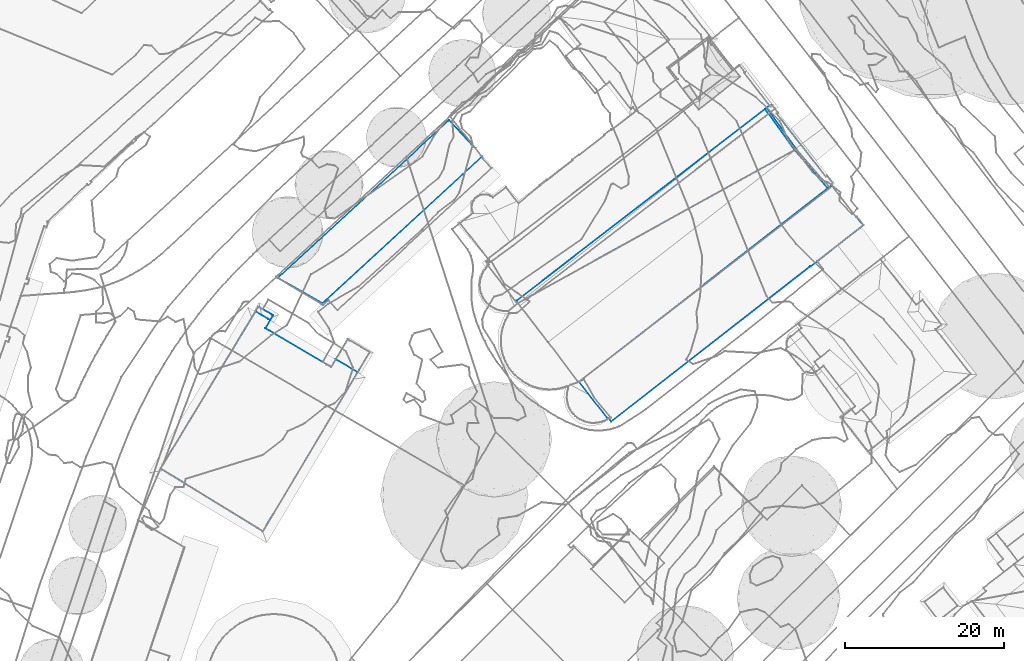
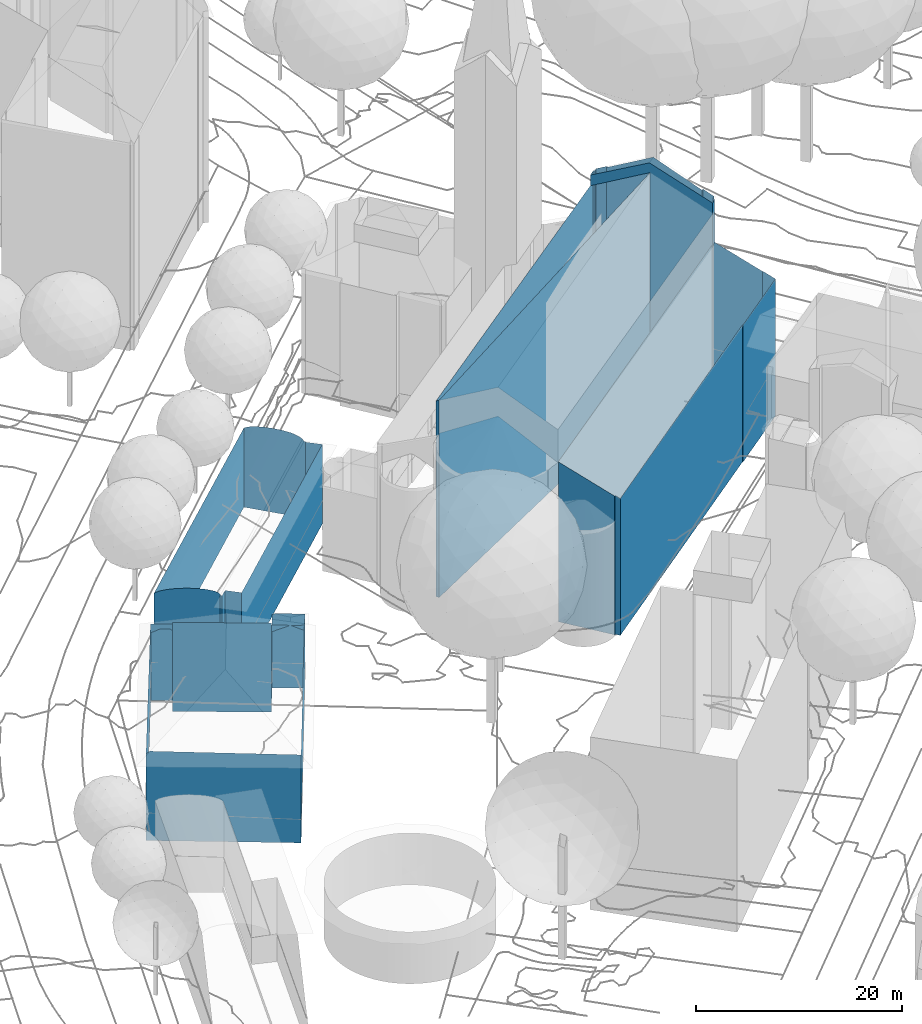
# Not in any storey, part 24 of 494: 3 walls.
"""IFC2X3 model written with IfcOpenShell, lengths in metres."""

from ifc_helpers import new_model, si_unit, frame, origin_with_axes, place, context, subcontext, project, faceted_brep, element, save


model = new_model("IFC2X3")

# Units and contexts
model_context = context("Model", 3, precision=1e-05, world=origin_with_axes())
body_context = subcontext(model_context, "Body", "Model", "MODEL_VIEW")
ifc_project = project(units=[si_unit("AREAUNIT", "SQUARE_METRE"), si_unit("LENGTHUNIT", "METRE")], contexts=[model_context])

# Walls
wall_1_placement = place(None, frame((95.7557320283, 201.4705160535, 529.7781), z_axis=(0.0, 0.0, 1.0), x_axis=(1.0, 0.0, 0.0)))
element("IfcWall", 1, at=wall_1_placement, Name="Wall 0", context=body_context, shape_type="Brep", body=[
    faceted_brep([(0.0, 0.0, 10.294), (0.175999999, 0.2763999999, 4.8265), (0.0, 0.0, 7.7173), (0.2969999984, 0.4638999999, 10.308), (0.2969999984, 0.4638999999, 7.7303), (0.0, 0.0, 5.1405), (0.0, 0.0, 0.0), (0.2969999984, 0.4638999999, 5.1535), (0.2969999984, 0.4638999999, 2.5767), (0.3019999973, 0.4726999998, 0.0), (22.0429999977, 13.7372999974, 9.5431), (23.6169999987, 12.7978999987, 9.5141), (22.0429999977, 13.7372999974, 8.7192), (24.7869999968, 12.1006000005, 9.5361), (24.7869999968, 12.1006000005, 8.9061), (23.5359999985, 16.2520000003, 0.0), (23.5359999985, 16.2520000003, 8.7192), (23.7709999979, 16.1142999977, 0.0), (23.7709999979, 16.1142999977, 8.8341), (26.2989999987, 14.6358000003, 8.8231), (26.2989999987, 14.6358000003, 0.0), (21.4659999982, 12.7588, 10.535), (21.4659999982, 12.7588, 0.0), (22.0429999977, 13.7372999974, 0.0), (12.8699999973, -7.8887000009, 10.421), (12.8409999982, -7.871100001, 10.446), (12.8699999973, -7.8887000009, 0.0), (0.3530000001, -0.2158000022, 0.0), (0.3530000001, -0.2158000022, 10.61), (0.4119999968, 0.6543000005, 10.308), (11.9439999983, 19.7558999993, 8.4852), (11.443, 18.9247999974, 0.0), (11.443, 18.9247999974, 10.4), (11.9439999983, 19.7558999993, 9.5431), (12.2919999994, 20.3330000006, 0.0), (12.2919999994, 20.3330000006, 8.4872), (12.5199999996, 20.2040999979, 8.6212), (14.0029999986, 19.3642999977, 8.6032), (14.1559999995, 19.2773999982, 8.6012), (14.0029999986, 19.3642999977, 0.0), (14.1559999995, 19.2773999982, 0.0), (12.7229999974, 19.2909999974, 9.5431), (12.7229999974, 19.2909999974, 8.9522), (13.561999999, 18.7929999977, 8.9521), (13.561999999, 18.7929999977, 9.5431), (13.7899999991, 18.6562999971, 9.5431), (13.7899999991, 18.6562999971, 8.7602), (13.7899999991, 18.6562999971, 0.0), (13.9899999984, 18.995099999, 0.0), (13.6099999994, 18.3506000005, 0.0), (13.186999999, 17.6308999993, 0.0), (13.6099999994, 18.3506000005, 9.8571), (13.186999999, 17.6308999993, 10.593), (13.9899999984, 18.995099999, 8.7612), (13.7209999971, 17.3173999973, 10.59), (13.7209999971, 17.3173999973, 0.0), (14.305999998, 16.9726999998, 10.586), (14.305999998, 16.9726999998, 0.0), (20.8969999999, 13.0937999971, 10.548), (20.8969999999, 13.0937999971, 0.0), (26.2039999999, 14.4775999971, 8.9031), (24.9539999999, 12.3808999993, 8.9031), (24.9539999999, 12.3808999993, 0.0), (24.6569999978, 11.8817999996, 0.0), (24.2789999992, 11.2480999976, 10.418), (13.5079999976, -6.817400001, 10.42), (24.5839999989, 11.7588, 9.893), (13.5079999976, -6.817400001, 0.0), (24.2789999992, 11.2480999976, 0.0)], [[[0, 1, 2]], [[3, 4, 1]], [[5, 2, 1]], [[6, 5, 1]], [[4, 7, 1]], [[8, 1, 7]], [[1, 9, 6]], [[10, 11, 12]], [[11, 13, 14]], [[15, 16, 17]], [[17, 16, 18]], [[17, 19, 20]], [[19, 17, 18]], [[21, 12, 22]], [[12, 21, 10]], [[15, 23, 16]], [[24, 25, 26]], [[27, 26, 5]], [[26, 25, 5]], [[28, 0, 2]], [[6, 27, 5]], [[5, 25, 2]], [[25, 28, 2]], [[4, 3, 29]], [[7, 4, 30]], [[8, 31, 9]], [[7, 31, 8]], [[32, 4, 29]], [[32, 33, 30]], [[30, 31, 7]], [[31, 30, 34]], [[30, 35, 34]], [[30, 4, 32]], [[35, 36, 34]], [[36, 37, 34]], [[37, 38, 39]], [[40, 39, 38]], [[37, 39, 34]], [[33, 41, 42]], [[42, 30, 33]], [[41, 43, 42]], [[44, 45, 43]], [[46, 43, 45]], [[44, 43, 41]], [[47, 48, 38]], [[47, 38, 49]], [[50, 49, 46]], [[40, 38, 48]], [[46, 45, 51]], [[46, 51, 52]], [[38, 53, 46]], [[38, 46, 49]], [[52, 50, 46]], [[52, 54, 50]], [[54, 55, 50]], [[55, 54, 56]], [[55, 56, 57]], [[58, 21, 59]], [[59, 57, 58]], [[22, 59, 21]], [[58, 57, 56]], [[19, 60, 61]], [[19, 61, 62]], [[63, 61, 14]], [[63, 62, 61]], [[19, 62, 20]], [[64, 65, 14]], [[14, 66, 64]], [[67, 65, 24]], [[66, 14, 13]], [[14, 68, 63]], [[67, 68, 14]], [[65, 67, 14]], [[24, 26, 67]], [[3, 1, 0]], [[9, 1, 8]], [[12, 23, 22]], [[23, 12, 16]]]),
])
wall_2_placement = place(None, frame((140.4987320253, 222.5740160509, 530.262), z_axis=(0.0, 0.0, 1.0), x_axis=(1.0, 0.0, 0.0)))
element("IfcWall", 2, at=wall_2_placement, Name="Wall 0", context=body_context, shape_type="Brep", body=[
    faceted_brep([(39.1830000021, 14.0625, 19.3782), (39.1830000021, 14.0625, 24.4677), (39.126000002, 14.129900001, 19.4152), (39.126000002, 14.129900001, 3.8746), (34.995000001, 18.9590000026, 3.8747), (34.995000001, 18.9590000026, 26.5825), (34.9480000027, 19.0127000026, 27.7214), (34.9480000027, 19.0127000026, 26.5445), (39.5310000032, 14.629900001, 19.4182), (39.768000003, 14.813500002, 24.6097), (39.5310000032, 14.629900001, 24.6017), (39.5310000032, 14.629900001, 14.2337), (39.768000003, 14.813500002, 3.8746), (39.5310000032, 14.629900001, 9.0501), (39.5310000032, 14.629900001, 3.8746), (39.0520000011, 15.7217000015, 25.1856), (39.0520000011, 15.7217000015, 3.8746), (38.8949999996, 15.5996000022, 25.1796), (38.8949999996, 15.5996000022, 19.8521), (39.6560000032, 14.4688000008, 24.4997), (39.6560000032, 14.4688000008, 19.3912), (31.9360000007, 24.3955000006, 3.8747), (31.9360000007, 24.3955000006, 24.6087), (32.1350000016, 24.5498000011, 24.6187), (32.1730000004, 24.5800999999, 3.8747), (31.819000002, 24.5469000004, 19.3262), (31.819000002, 24.5469000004, 14.1427), (31.819000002, 24.5469000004, 24.5097), (31.819000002, 24.5469000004, 3.8747), (31.2490000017, 24.0987000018, 24.4827), (32.7230000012, 23.5371000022, 19.8661), (32.8729999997, 23.5479000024, 25.2566), (32.7230000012, 23.5371000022, 25.2116), (32.7230000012, 23.5371000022, 3.8747), (32.8729999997, 23.5479000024, 3.8747), (32.8889000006, 23.6661000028, 3.8747), (32.8890000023, 23.6660000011, 25.2156), (32.1730000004, 24.5800999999, 24.6207), (11.6030000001, -14.7704999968, 16.9034), (11.4979999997, -14.8368999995, 0.429), (11.6030000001, -14.7704999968, 0.429), (11.9299999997, -15.186499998, 0.429), (11.9299999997, -15.186499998, 16.6794), (36.9150000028, 4.3360000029, 0.429), (36.947900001, 4.2941000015, 0.429), (36.947800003, 4.2939999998, 16.6914), (36.9148000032, 4.3360000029, 16.7134), (41.5160000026, 7.8623000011, 6.5274), (41.0219999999, 7.4766000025, 16.6964), (43.5930000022, 9.4844000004, 16.6994), (43.5930000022, 9.4844000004, 0.429), (39.4400000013, 6.2402999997, 0.429), (42.7580000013, 10.558600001, 17.2764), (42.7580000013, 10.558600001, 0.429), (42.7200000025, 10.5293000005, 0.429), (42.7200000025, 10.5293000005, 8.8522), (11.4979999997, -14.8368999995, 16.9084), (7.8670000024, -10.1659999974, 0.429), (7.8670000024, -10.1659999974, 19.4152), (39.6210000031, 14.514700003, 3.8746), (39.6210000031, 14.514700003, 0.429), (0.2019999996, -0.2938999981, 23.4248), (0.0, 0.0, 23.2138), (0.2019999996, -0.2938999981, 0.0), (31.4519999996, 24.2569000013, 0.0), (31.4519999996, 24.2569000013, 3.8747), (35.2050000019, 19.0742000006, 3.8747), (35.2050000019, 19.0742000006, 0.0), (42.7200000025, 10.5293000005, 17.2764), (35.7479999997, 19.6465000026, 27.7354), (36.8370000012, 18.2471000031, 26.8474), (35.7479999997, 19.6465000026, 3.8747), (38.8949999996, 15.5996000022, 14.5246), (36.8370000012, 18.2471000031, 3.8746), (38.8949999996, 15.5996000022, 3.8746), (0.0, 0.0, 0.0), (31.2479999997, 24.0996000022, 23.2138)], [[[0, 1, 2]], [[3, 2, 4]], [[1, 5, 2]], [[6, 5, 1]], [[7, 5, 6]], [[5, 4, 2]], [[8, 9, 10]], [[11, 9, 8]], [[9, 11, 12]], [[13, 14, 12]], [[15, 9, 16]], [[17, 16, 18]], [[17, 15, 16]], [[19, 1, 20]], [[21, 22, 23]], [[23, 24, 21]], [[25, 22, 26]], [[27, 22, 25]], [[28, 26, 21]], [[6, 29, 7]], [[30, 31, 32]], [[33, 31, 30]], [[34, 31, 33]], [[35, 36, 31]], [[31, 34, 35]], [[36, 35, 37]], [[37, 35, 24]], [[37, 24, 23]], [[38, 39, 40]], [[41, 42, 38]], [[40, 41, 38]], [[41, 43, 42]], [[43, 44, 45]], [[46, 43, 45]], [[47, 48, 44]], [[49, 48, 50]], [[47, 50, 48]], [[51, 50, 47]], [[45, 44, 48]], [[51, 47, 44]], [[52, 50, 53]], [[54, 55, 52]], [[56, 57, 39]], [[57, 56, 58]], [[57, 58, 3]], [[3, 58, 2]], [[3, 59, 60]], [[3, 60, 57]], [[61, 62, 63]], [[64, 65, 66]], [[66, 67, 64]], [[66, 4, 67]], [[67, 4, 63]], [[61, 63, 4]], [[61, 4, 5]], [[8, 10, 19]], [[8, 19, 20]], [[11, 8, 20]], [[55, 13, 11]], [[11, 20, 68]], [[59, 13, 55]], [[55, 11, 68]], [[14, 13, 59]], [[54, 60, 59]], [[59, 55, 54]], [[30, 32, 69]], [[30, 69, 70]], [[18, 33, 30]], [[18, 30, 70]], [[71, 33, 72]], [[72, 33, 18]], [[73, 71, 72]], [[74, 73, 72]], [[18, 70, 17]], [[26, 75, 62]], [[75, 65, 64]], [[26, 65, 75]], [[62, 76, 25]], [[27, 25, 76]], [[28, 65, 26]], [[26, 62, 25]], [[29, 27, 76]], [[11, 13, 12]], [[9, 12, 16]], [[72, 18, 16]], [[16, 74, 72]], [[1, 0, 20]], [[22, 21, 26]], [[29, 76, 7]], [[38, 56, 39]], [[46, 42, 43]], [[49, 50, 52]], [[55, 68, 52]], [[53, 54, 52]], [[62, 75, 63]]]),
])
wall_3_placement = place(None, frame((110.5127320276, 225.4217160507, 530.0601), z_axis=(0.0, 0.0, 1.0), x_axis=(1.0, 0.0, 0.0)))
element("IfcWall", 3, at=wall_3_placement, Name="Wall 0", context=body_context, shape_type="Brep", body=[
    faceted_brep([(25.7089999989, 15.0879000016, 9.1591), (26.8609999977, 13.8369000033, -0.216), (25.7089999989, 15.0879000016, -0.216), (25.7599999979, 15.1347000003, 2.1278), (25.7599999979, 15.134800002, -0.216), (25.7599999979, 15.1347000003, 9.1591), (25.7599999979, 15.134800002, 6.8153), (5.5109999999, -3.2821999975, -0.216), (5.6799999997, -3.3818999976, -0.216), (5.5109999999, -3.2821999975, 9.1491), (6.3570000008, -2.7588, 9.1591), (5.6799999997, -3.3818999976, 9.1591), (6.3570000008, -2.7588, -0.216), (7.5089999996, -4.0088, 9.2531), (7.5089999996, -4.0088, -0.216), (26.8609999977, 13.8369000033, 9.2531), (0.0, 0.0, 9.4051), (21.5419999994, 19.8662, 9.4051), (0.0, 0.0, 0.0), (5.5940000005, -3.2050999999, 0.0), (5.5940000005, -3.2050999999, 9.1491), (25.6429999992, 15.2842000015, -0.216), (25.6429999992, 15.2842000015, 0.0), (21.8460000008, 19.5371000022, 0.0), (21.5419999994, 19.8662, 0.0), (24.8350000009, 16.3047000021, 9.818), (22.318, 19.0254000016, 0.0), (22.9140000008, 18.3789000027, 0.0), (24.2339999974, 16.947300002, 0.0), (23.574000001, 17.6631000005, 9.976), (22.318, 19.0254000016, 9.818), (22.9140000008, 18.3789000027, 9.936), (24.2339999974, 16.9472000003, 9.936), (24.8350000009, 16.3047000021, 0.0), (21.8460000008, 19.5371000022, 9.6351), (25.2689999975, 15.7568000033, 0.0), (25.2689999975, 15.7568000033, 9.6351), (25.6429999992, 15.2842000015, 9.1491), (25.5469999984, 15.4053000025, 9.4051), (5.1099999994, -2.9277999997, 0.0), (1.0419999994, -0.5966999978, 9.818), (0.4079999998, -0.2333999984, 9.6351), (4.4129999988, -2.5282999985, 0.0), (3.612999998, -2.0702999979, 0.0), (2.7280000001, -1.561499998, 0.0), (0.4079999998, -0.2333999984, 0.0), (1.1050000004, -0.6327999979, 0.0), (5.4539999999, -3.125, 9.4051), (5.0469999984, -2.8915999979, 9.6351), (3.612999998, -2.0702999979, 9.936), (4.4129999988, -2.5282999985, 9.818), (2.7280000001, -1.561499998, 9.976), (1.8420000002, -1.0546999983, 9.936)], [[[0, 1, 2]], [[3, 0, 4]], [[5, 0, 6]], [[0, 3, 6]], [[4, 0, 2]], [[7, 8, 9]], [[10, 11, 12]], [[12, 11, 8]], [[13, 12, 14]], [[14, 1, 15]], [[14, 15, 13]], [[16, 17, 18]], [[19, 7, 20]], [[19, 21, 7]], [[21, 19, 22]], [[23, 24, 25]], [[26, 23, 25]], [[27, 26, 25]], [[27, 25, 28]], [[29, 24, 17]], [[30, 31, 17]], [[31, 29, 17]], [[25, 24, 32]], [[24, 29, 32]], [[25, 33, 28]], [[30, 17, 34]], [[3, 35, 33]], [[25, 3, 33]], [[22, 35, 3]], [[21, 22, 4]], [[36, 6, 25]], [[37, 5, 6]], [[38, 37, 6]], [[4, 22, 3]], [[6, 3, 25]], [[38, 6, 36]], [[39, 19, 40]], [[39, 41, 42]], [[43, 42, 16]], [[43, 16, 44]], [[45, 16, 18]], [[16, 45, 46]], [[46, 44, 16]], [[20, 47, 48]], [[49, 19, 50]], [[50, 20, 48]], [[49, 51, 19]], [[19, 52, 40]], [[41, 16, 42]], [[39, 40, 41]], [[19, 51, 52]], [[50, 19, 20]], [[15, 1, 0]], [[9, 8, 11]], [[10, 12, 13]], [[17, 24, 18]], [[7, 9, 20]]]),
])

save(model, "model.ifc")
